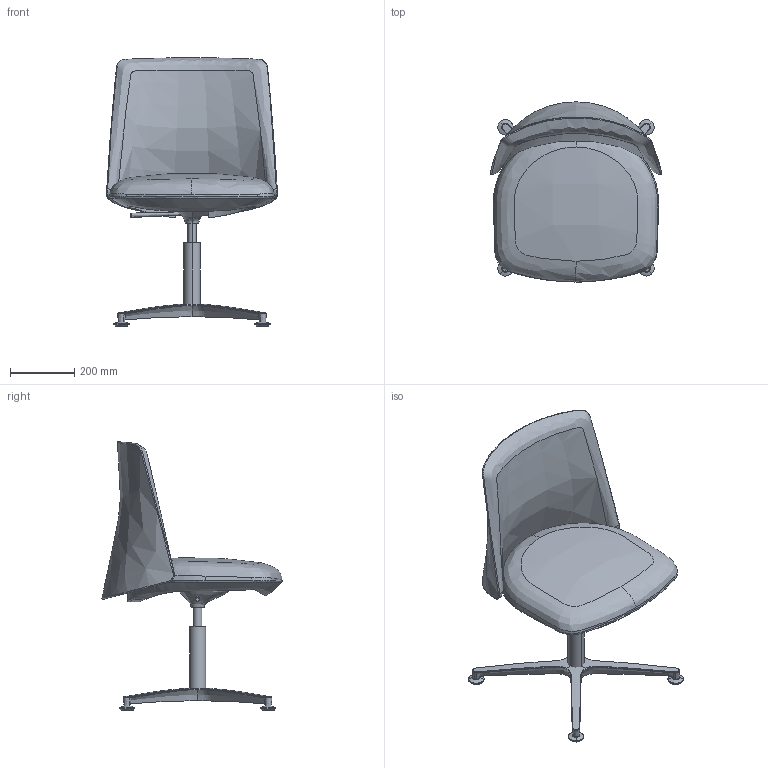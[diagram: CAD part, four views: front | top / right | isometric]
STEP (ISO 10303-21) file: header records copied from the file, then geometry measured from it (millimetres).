
FILE_DESCRIPTION(/* description */ (''),/* implementation_level */ '2;1');
FILE_NAME(/* name */ 'ME71EF~1',/* time_stamp */ '2016-11-30T16:01:14+01:00',/* author */ (''),/* organization */ (''),/* preprocessor_version */ 'ST-DEVELOPER v15',/* originating_system */ '',/* authorisation */ '');
FILE_SCHEMA (('CONFIG_CONTROL_DESIGN'));
Length unit declared in the file: millimetre
Products named in the file (1): Document
Bounding box: 530.87 x 560.13 x 834.45 mm (x, y, z)
Volume: 27149849.3 mm3; surface area: 1561200.7 mm2
Topology: 4 solids, 19 shells, 165 faces, 398 edges, 247 vertices
Faces by surface type: bspline 122, plane 43
Entity records: 14033 total; most frequent: CARTESIAN_POINT 11623, ORIENTED_EDGE 706, EDGE_CURVE 387, B_SPLINE_CURVE_WITH_KNOTS 254, VERTEX_POINT 241, ADVANCED_FACE 165, FACE_OUTER_BOUND 165, EDGE_LOOP 165
